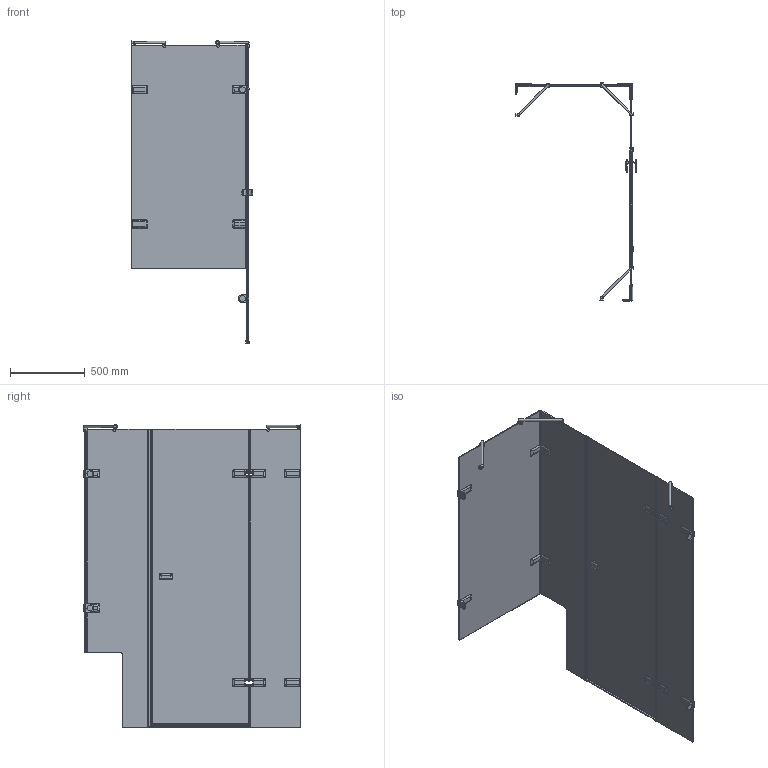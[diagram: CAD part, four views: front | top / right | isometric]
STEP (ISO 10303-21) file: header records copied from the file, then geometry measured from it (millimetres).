
FILE_DESCRIPTION(/* description */ (''),/* implementation_level */ '2;1');
FILE_NAME(/* name */ 'E:\Работа\Сергей\Душевые кабинки\! Работа\98\TREND RECTAN GK-864B1V\TREND RECTAN GK-864B1V левая модель\TREND RECTAN GK-864B1V ЛЕВАЯ-3D.stp',/* time_stamp */ '2018-06-07T20:09:58+03:00',/* author */ ('PC'),/* organization */ (''),/* preprocessor_version */ 'ST-DEVELOPER v15.2',/* originating_system */ 'Autodesk Inventor 2014',/* authorisation */ '');
FILE_SCHEMA (('AUTOMOTIVE_DESIGN { 1 0 10303 214 3 1 1 }'));
Products named in the file (1): TREND RECTAN GK-864B1V ЛЕВАЯ-3D
Bounding box: 812.72 x 1461 x 2031.5 mm (x, y, z)
Volume: 24986464.8 mm3; surface area: 8344950.1 mm2
Topology: 13 solids, 13 shells, 1290 faces, 3579 edges, 2258 vertices
Faces by surface type: plane 730, cylinder 373, bspline 134, torus 43, sphere 7, cone 3
Full cylindrical faces by diameter (mm): 10 x4, 15 x3, 20 x6, 26 x2, 40 x4
Entity records: 48609 total; most frequent: CARTESIAN_POINT 15145, ORIENTED_EDGE 6890, DIRECTION 6385, EDGE_CURVE 3445, LINE 2335, VECTOR 2335, VERTEX_POINT 2231, AXIS2_PLACEMENT_3D 2025
